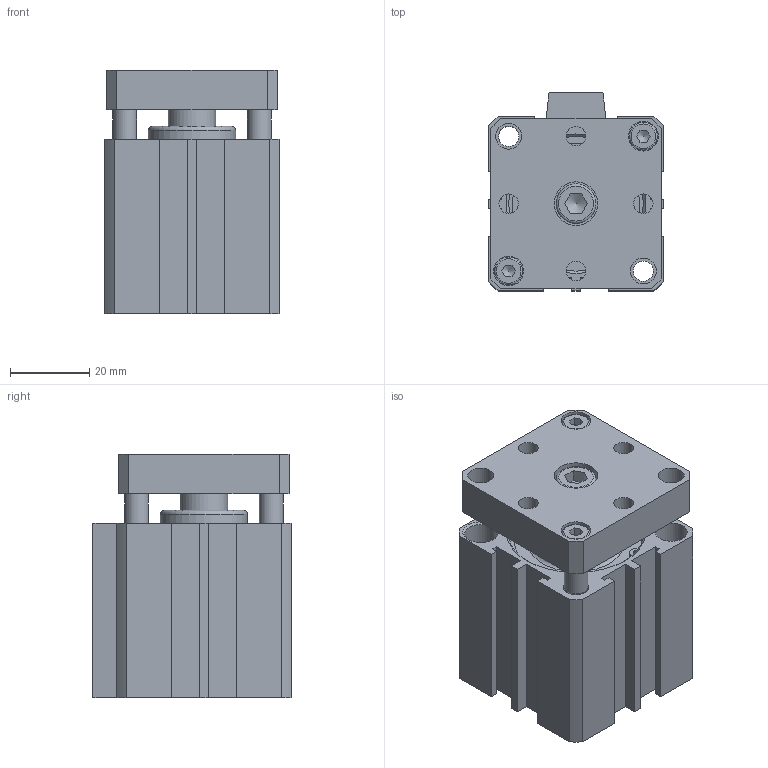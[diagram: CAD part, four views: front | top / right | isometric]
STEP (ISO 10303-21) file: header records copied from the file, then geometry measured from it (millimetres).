
FILE_DESCRIPTION((''),'2;1');
FILE_NAME('I:\3D電子目錄\氣缸\JTD\JTD\JTD32\JTD32x20.stp','2007-08-09T20:27:56',('Administrator'),(''),'Autodesk Inventor 11','Autodesk Inventor 11','');
FILE_SCHEMA(('AUTOMOTIVE_DESIGN { 1 0 10303 214 1 1 1 1 }'));
Length unit declared in the file: millimetre
Products named in the file (5): JTD32; R 形環 35; ISO 4762 M6 x 10; ISO 4762 M4 x 10
Assembly tree (6 placements, depth 2):
  JTD32
    JTD32
    R 形環 35  x2
    ISO 4762 M6 x 10
    ISO 4762 M4 x 10  x2
Bounding box: 44 x 50 x 61.5 mm (x, y, z)
Volume: 88943.7 mm3; surface area: 30338.6 mm2
Topology: 6 solids, 6 shells, 201 faces, 465 edges, 305 vertices
Faces by surface type: plane 114, cylinder 51, bspline 19, cone 12, torus 5
Full cylindrical faces by diameter (mm): 1.9 x4, 2.2 x2, 4 x2, 5.1 x2, 6 x3, 6.5 x4, 7 x2, 8 x4, 10 x1, 12 x1, 22 x1, 23 x1, 34 x4, 36 x2
Entity records: 5049 total; most frequent: CARTESIAN_POINT 1119, DIRECTION 784, ORIENTED_EDGE 684, EDGE_CURVE 342, AXIS2_PLACEMENT_3D 287, EDGE_LOOP 284, VERTEX_POINT 260, VECTOR 210
